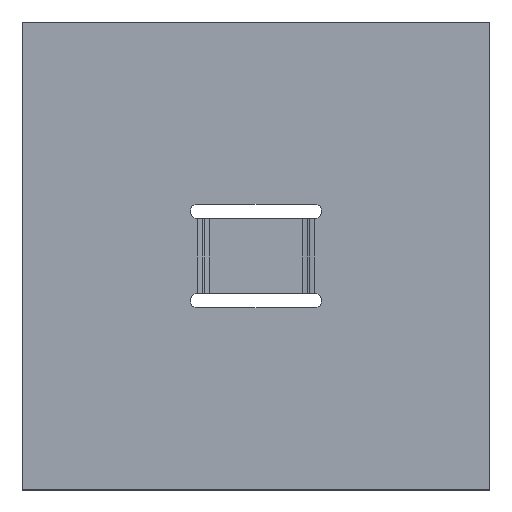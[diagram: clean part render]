
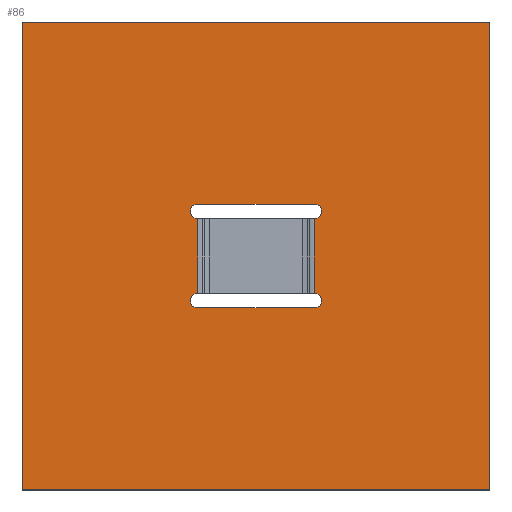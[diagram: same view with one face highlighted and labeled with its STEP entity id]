
A CAD part, top view. The second image highlights one B-rep face of the part: STEP entity #86.
In plain terms, the highlighted planar face has unit normal (0, 0, 1).
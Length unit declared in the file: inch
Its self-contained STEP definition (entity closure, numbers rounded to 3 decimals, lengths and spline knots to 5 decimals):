
#86=ADVANCED_FACE('',(#127,#128),#129,.T.);
#127=FACE_OUTER_BOUND('',#185,.T.);
#128=FACE_BOUND('',#186,.T.);
#129=PLANE('',#187);
#185=EDGE_LOOP('',(#305,#306,#307,#308));
#186=EDGE_LOOP('',(#309,#310,#311,#312,#313,#314,#315,#316));
#187=AXIS2_PLACEMENT_3D('',#317,#318,#319);
#305=ORIENTED_EDGE('',*,*,#486,.T.);
#306=ORIENTED_EDGE('',*,*,#483,.T.);
#307=ORIENTED_EDGE('',*,*,#484,.T.);
#308=ORIENTED_EDGE('',*,*,#477,.F.);
#309=ORIENTED_EDGE('',*,*,#462,.F.);
#310=ORIENTED_EDGE('',*,*,#464,.F.);
#311=ORIENTED_EDGE('',*,*,#456,.F.);
#312=ORIENTED_EDGE('',*,*,#490,.T.);
#313=ORIENTED_EDGE('',*,*,#472,.F.);
#314=ORIENTED_EDGE('',*,*,#474,.T.);
#315=ORIENTED_EDGE('',*,*,#468,.F.);
#316=ORIENTED_EDGE('',*,*,#491,.F.);
#317=CARTESIAN_POINT('',(0.0,3.45297,-1.21703));
#318=DIRECTION('',(0.0,0.0,1.0));
#319=DIRECTION('',(1.0,0.0,0.0));
#456=EDGE_CURVE('',#532,#533,#534,.T.);
#462=EDGE_CURVE('',#543,#545,#546,.T.);
#464=EDGE_CURVE('',#533,#543,#548,.T.);
#468=EDGE_CURVE('',#553,#555,#556,.T.);
#472=EDGE_CURVE('',#561,#563,#564,.T.);
#474=EDGE_CURVE('',#561,#555,#566,.T.);
#477=EDGE_CURVE('',#568,#571,#572,.T.);
#483=EDGE_CURVE('',#576,#581,#583,.T.);
#484=EDGE_CURVE('',#581,#571,#584,.T.);
#486=EDGE_CURVE('',#568,#576,#586,.T.);
#490=EDGE_CURVE('',#532,#563,#590,.T.);
#491=EDGE_CURVE('',#545,#553,#591,.T.);
#532=VERTEX_POINT('',#656);
#533=VERTEX_POINT('',#657);
#534=CIRCLE('',#658,0.031);
#543=VERTEX_POINT('',#669);
#545=VERTEX_POINT('',#672);
#546=CIRCLE('',#673,0.031);
#548=LINE('',#676,#677);
#553=VERTEX_POINT('',#683);
#555=VERTEX_POINT('',#686);
#556=CIRCLE('',#687,0.031);
#561=VERTEX_POINT('',#693);
#563=VERTEX_POINT('',#696);
#564=CIRCLE('',#697,0.031);
#566=LINE('',#700,#701);
#568=VERTEX_POINT('',#704);
#571=VERTEX_POINT('',#708);
#572=LINE('',#709,#710);
#576=VERTEX_POINT('',#716);
#581=VERTEX_POINT('',#723);
#583=LINE('',#726,#727);
#584=LINE('',#728,#729);
#586=LINE('',#732,#733);
#590=LINE('',#740,#741);
#591=LINE('',#742,#743);
#656=CARTESIAN_POINT('',(-1.115,1.53297,-1.21703));
#657=CARTESIAN_POINT('',(-1.115,1.47097,-1.21703));
#658=AXIS2_PLACEMENT_3D('',#832,#833,#834);
#669=CARTESIAN_POINT('',(-0.615,1.47097,-1.21703));
#672=CARTESIAN_POINT('',(-0.615,1.53297,-1.21703));
#673=AXIS2_PLACEMENT_3D('',#844,#845,#846);
#676=CARTESIAN_POINT('',(-0.865,1.47097,-1.21703));
#677=VECTOR('',#848,1.0);
#683=CARTESIAN_POINT('',(-0.615,1.85297,-1.21703));
#686=CARTESIAN_POINT('',(-0.615,1.91497,-1.21703));
#687=AXIS2_PLACEMENT_3D('',#854,#855,#856);
#693=CARTESIAN_POINT('',(-1.115,1.91497,-1.21703));
#696=CARTESIAN_POINT('',(-1.115,1.85297,-1.21703));
#697=AXIS2_PLACEMENT_3D('',#862,#863,#864);
#700=CARTESIAN_POINT('',(-0.865,1.91497,-1.21703));
#701=VECTOR('',#866,1.0);
#704=CARTESIAN_POINT('',(0.135,0.69297,-1.21703));
#708=CARTESIAN_POINT('',(-1.865,0.69297,-1.21703));
#709=CARTESIAN_POINT('',(-0.865,0.69297,-1.21703));
#710=VECTOR('',#869,1.0);
#716=CARTESIAN_POINT('',(0.135,2.69297,-1.21703));
#723=CARTESIAN_POINT('',(-1.865,2.69297,-1.21703));
#726=CARTESIAN_POINT('',(-0.865,2.69297,-1.21703));
#727=VECTOR('',#875,1.0);
#728=CARTESIAN_POINT('',(-1.865,6741.2847,-1.21703));
#729=VECTOR('',#876,1.0);
#732=CARTESIAN_POINT('',(0.135,2.35297,-1.21703));
#733=VECTOR('',#878,1.0);
#740=CARTESIAN_POINT('',(-1.115,1.53297,-1.21703));
#741=VECTOR('',#882,0.32);
#742=CARTESIAN_POINT('',(-0.615,1.53297,-1.21703));
#743=VECTOR('',#883,0.32);
#832=CARTESIAN_POINT('',(-1.115,1.50197,-1.21703));
#833=DIRECTION('',(0.0,0.0,1.0));
#834=DIRECTION('',(-0.707,-0.707,0.0));
#844=CARTESIAN_POINT('',(-0.615,1.50197,-1.21703));
#845=DIRECTION('',(0.0,0.0,1.0));
#846=DIRECTION('',(0.707,-0.707,0.0));
#848=DIRECTION('',(1.0,0.0,0.0));
#854=CARTESIAN_POINT('',(-0.615,1.88397,-1.21703));
#855=DIRECTION('',(0.0,-0.0,1.0));
#856=DIRECTION('',(0.707,0.707,0.0));
#862=CARTESIAN_POINT('',(-1.115,1.88397,-1.21703));
#863=DIRECTION('',(0.0,0.0,1.0));
#864=DIRECTION('',(-0.707,-0.707,0.0));
#866=DIRECTION('',(1.0,0.0,0.0));
#869=DIRECTION('',(-1.0,0.0,0.0));
#875=DIRECTION('',(-1.0,0.0,0.0));
#876=DIRECTION('',(0.0,-1.0,0.0));
#878=DIRECTION('',(0.0,1.0,0.0));
#882=DIRECTION('',(0.0,1.0,0.0));
#883=DIRECTION('',(0.0,1.0,0.0));
